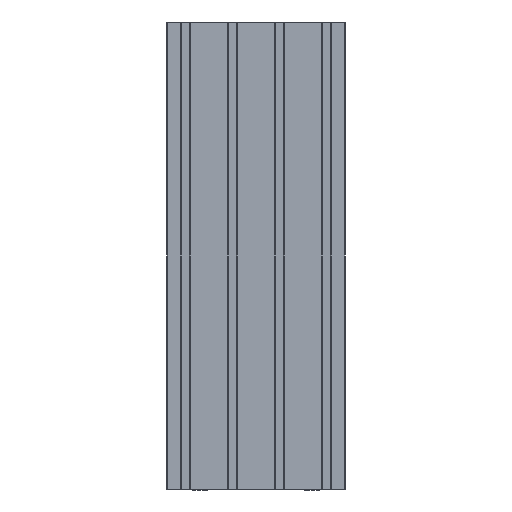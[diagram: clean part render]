
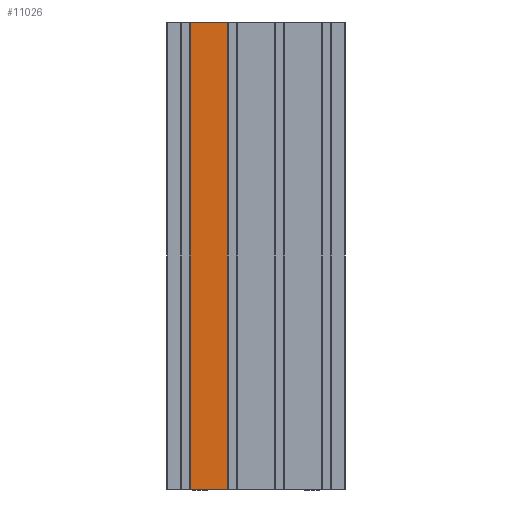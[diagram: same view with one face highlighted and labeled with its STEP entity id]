
A CAD part, front view. The second image highlights one B-rep face of the part: STEP entity #11026.
In plain terms, the highlighted planar face has unit normal (0, -1, 0).
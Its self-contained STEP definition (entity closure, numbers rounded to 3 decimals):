
#2785 = CARTESIAN_POINT ( 'NONE',  ( -29.05, 0., -496. ) ) ;
#2798 = CARTESIAN_POINT ( 'NONE',  ( -30.05, 0., -496. ) ) ;
#2800 = DIRECTION ( 'NONE',  ( 0., 0., 1. ) ) ;
#2801 = DIRECTION ( 'NONE',  ( 1., 0., 0. ) ) ;
#2802 = CARTESIAN_POINT ( 'NONE',  ( -69.95, 0., -496. ) ) ;
#2803 = DIRECTION ( 'NONE',  ( 0., 0., -1. ) ) ;
#2804 = CARTESIAN_POINT ( 'NONE',  ( -29.05, 0., 0. ) ) ;
#2805 = DIRECTION ( 'NONE',  ( 1., 0., 0. ) ) ;
#3438 = LINE ( 'NONE', #2785, #3445 ) ;
#3440 = LINE ( 'NONE', #2798, #3443 ) ;
#3443 = VECTOR ( 'NONE', #2800, 1000. ) ;
#3444 = LINE ( 'NONE', #2802, #3447 ) ;
#3445 = VECTOR ( 'NONE', #2801, 1000. ) ;
#3446 = LINE ( 'NONE', #2804, #3449 ) ;
#3447 = VECTOR ( 'NONE', #2803, 1000. ) ;
#3449 = VECTOR ( 'NONE', #2805, 1000. ) ;
#5505 = CARTESIAN_POINT ( 'NONE',  ( -30.05, 0., -496. ) ) ;
#5539 = CARTESIAN_POINT ( 'NONE',  ( -69.95, 0., -496. ) ) ;
#5549 = CARTESIAN_POINT ( 'NONE',  ( -30.05, 0., 0. ) ) ;
#5551 = CARTESIAN_POINT ( 'NONE',  ( -69.95, 0., 0. ) ) ;
#8405 = ORIENTED_EDGE ( 'NONE', *, *, #35548, .T. ) ;
#8406 = ORIENTED_EDGE ( 'NONE', *, *, #35549, .T. ) ;
#8407 = ORIENTED_EDGE ( 'NONE', *, *, #35550, .T. ) ;
#8408 = ORIENTED_EDGE ( 'NONE', *, *, #35551, .F. ) ;
#11026 = ADVANCED_FACE ( 'NONE', ( #16246 ), #15811, .T. ) ;
#15804 = CARTESIAN_POINT ( 'NONE',  ( -29.05, 0., -496. ) ) ;
#15811 = PLANE ( 'NONE',  #36917 ) ;
#15813 = DIRECTION ( 'NONE',  ( 0., -1., 0. ) ) ;
#15814 = DIRECTION ( 'NONE',  ( 1., 0., 0. ) ) ;
#16246 = FACE_OUTER_BOUND ( 'NONE', #36631, .T. ) ;
#35548 = EDGE_CURVE ( 'NONE', #51022, #51066, #3440, .T. ) ;
#35549 = EDGE_CURVE ( 'NONE', #51056, #51022, #3438, .T. ) ;
#35550 = EDGE_CURVE ( 'NONE', #51068, #51056, #3444, .T. ) ;
#35551 = EDGE_CURVE ( 'NONE', #51068, #51066, #3446, .T. ) ;
#36631 = EDGE_LOOP ( 'NONE', ( #8408, #8407, #8406, #8405 ) ) ;
#36917 = AXIS2_PLACEMENT_3D ( 'NONE', #15804, #15813, #15814 ) ;
#51022 = VERTEX_POINT ( 'NONE', #5505 ) ;
#51056 = VERTEX_POINT ( 'NONE', #5539 ) ;
#51066 = VERTEX_POINT ( 'NONE', #5549 ) ;
#51068 = VERTEX_POINT ( 'NONE', #5551 ) ;
